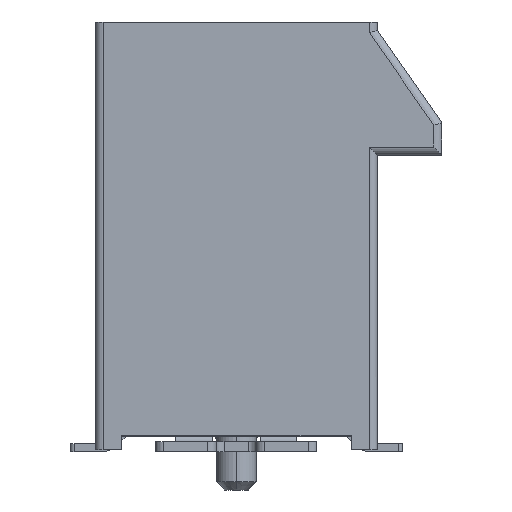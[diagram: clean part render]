
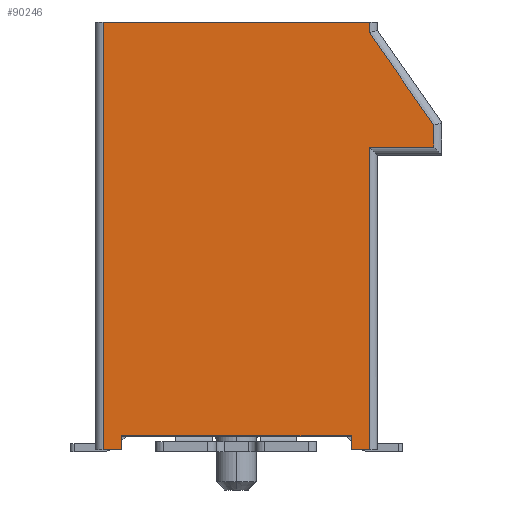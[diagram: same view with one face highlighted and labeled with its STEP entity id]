
A CAD part, left-side view. The second image highlights one B-rep face of the part: STEP entity #90246.
In plain terms, the highlighted planar face has unit normal (-1, 0, 0).
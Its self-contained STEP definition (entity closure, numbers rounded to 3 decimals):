
#6072=DIRECTION('',(0.,-1.,0.));
#6073=VECTOR('',#6072,1.6);
#6074=CARTESIAN_POINT('',(-44.5,-3.3,7.65));
#6075=LINE('',#6074,#6073);
#6076=DIRECTION('',(0.,0.,1.));
#6077=VECTOR('',#6076,7.5);
#6078=CARTESIAN_POINT('',(-44.5,-3.3,0.15));
#6079=LINE('',#6078,#6077);
#6084=DIRECTION('',(0.,-1.,0.));
#6085=VECTOR('',#6084,0.45);
#6086=CARTESIAN_POINT('',(-44.5,-2.85,0.15));
#6087=LINE('',#6086,#6085);
#6101=DIRECTION('',(0.,-1.,0.));
#6102=VECTOR('',#6101,6.6);
#6103=CARTESIAN_POINT('',(-44.5,3.3,10.75));
#6104=LINE('',#6103,#6102);
#6105=DIRECTION('',(0.,-0.571,-0.821));
#6106=VECTOR('',#6105,2.802);
#6107=CARTESIAN_POINT('',(-44.5,-3.3,10.487));
#6108=LINE('',#6107,#6106);
#6109=DIRECTION('',(0.,1.,0.));
#6110=VECTOR('',#6109,5.7);
#6111=CARTESIAN_POINT('',(-44.5,-2.85,0.5));
#6112=LINE('',#6111,#6110);
#6117=DIRECTION('',(0.,0.,-1.));
#6118=VECTOR('',#6117,10.6);
#6119=CARTESIAN_POINT('',(-44.5,3.3,10.75));
#6120=LINE('',#6119,#6118);
#6126=DIRECTION('',(0.,-1.,0.));
#6127=VECTOR('',#6126,0.45);
#6128=CARTESIAN_POINT('',(-44.5,3.3,0.15));
#6129=LINE('',#6128,#6127);
#6146=DIRECTION('',(0.,0.,1.));
#6147=VECTOR('',#6146,0.35);
#6148=CARTESIAN_POINT('',(-44.5,2.85,0.15));
#6149=LINE('',#6148,#6147);
#6414=DIRECTION('',(0.,0.,-1.));
#6415=VECTOR('',#6414,0.35);
#6416=CARTESIAN_POINT('',(-44.5,-2.85,0.5));
#6417=LINE('',#6416,#6415);
#8965=DIRECTION('',(0.,0.,1.));
#8966=VECTOR('',#8965,0.263);
#8967=CARTESIAN_POINT('',(-44.5,-3.3,10.487));
#8968=LINE('',#8967,#8966);
#28132=DIRECTION('',(0.,0.,1.));
#28133=VECTOR('',#28132,0.537);
#28134=CARTESIAN_POINT('',(-44.5,-4.9,7.65));
#28135=LINE('',#28134,#28133);
#67305=CARTESIAN_POINT('',(-44.5,3.3,10.75));
#67306=VERTEX_POINT('',#67305);
#67311=CARTESIAN_POINT('',(-44.5,-3.3,10.75));
#67312=VERTEX_POINT('',#67311);
#67329=CARTESIAN_POINT('',(-44.5,3.3,0.15));
#67330=VERTEX_POINT('',#67329);
#67331=CARTESIAN_POINT('',(-44.5,2.85,0.15));
#67332=VERTEX_POINT('',#67331);
#67333=CARTESIAN_POINT('',(-44.5,-3.3,10.487));
#67334=VERTEX_POINT('',#67333);
#67335=CARTESIAN_POINT('',(-44.5,-4.9,8.187));
#67336=VERTEX_POINT('',#67335);
#67337=CARTESIAN_POINT('',(-44.5,-4.9,7.65));
#67338=VERTEX_POINT('',#67337);
#67339=CARTESIAN_POINT('',(-44.5,-3.3,7.65));
#67340=VERTEX_POINT('',#67339);
#67341=CARTESIAN_POINT('',(-44.5,-3.3,0.15));
#67342=VERTEX_POINT('',#67341);
#67343=CARTESIAN_POINT('',(-44.5,-2.85,0.15));
#67344=VERTEX_POINT('',#67343);
#67345=CARTESIAN_POINT('',(-44.5,-2.85,0.5));
#67346=VERTEX_POINT('',#67345);
#67347=CARTESIAN_POINT('',(-44.5,2.85,0.5));
#67348=VERTEX_POINT('',#67347);
#90218=CARTESIAN_POINT('',(-44.5,3.5,0.));
#90219=DIRECTION('',(-1.,0.,0.));
#90220=DIRECTION('',(0.,-1.,0.));
#90221=AXIS2_PLACEMENT_3D('',#90218,#90219,#90220);
#90222=PLANE('',#90221);
#90224=ORIENTED_EDGE('',*,*,#90223,.F.);
#90226=ORIENTED_EDGE('',*,*,#90225,.T.);
#90228=ORIENTED_EDGE('',*,*,#90227,.F.);
#90230=ORIENTED_EDGE('',*,*,#90229,.T.);
#90232=ORIENTED_EDGE('',*,*,#90231,.F.);
#90233=ORIENTED_EDGE('',*,*,#90181,.F.);
#90234=ORIENTED_EDGE('',*,*,#90195,.F.);
#90235=ORIENTED_EDGE('',*,*,#90207,.F.);
#90237=ORIENTED_EDGE('',*,*,#90236,.F.);
#90239=ORIENTED_EDGE('',*,*,#90238,.T.);
#90241=ORIENTED_EDGE('',*,*,#90240,.F.);
#90243=ORIENTED_EDGE('',*,*,#90242,.F.);
#90244=EDGE_LOOP('',(#90224,#90226,#90228,#90230,#90232,#90233,#90234,#90235,
#90237,#90239,#90241,#90243));
#90245=FACE_OUTER_BOUND('',#90244,.F.);
#90246=ADVANCED_FACE('',(#90245),#90222,.T.);
#90181=EDGE_CURVE('',#67340,#67338,#6075,.T.);
#90195=EDGE_CURVE('',#67342,#67340,#6079,.T.);
#90207=EDGE_CURVE('',#67344,#67342,#6087,.T.);
#90223=EDGE_CURVE('',#67306,#67330,#6120,.T.);
#90225=EDGE_CURVE('',#67306,#67312,#6104,.T.);
#90227=EDGE_CURVE('',#67334,#67312,#8968,.T.);
#90229=EDGE_CURVE('',#67334,#67336,#6108,.T.);
#90231=EDGE_CURVE('',#67338,#67336,#28135,.T.);
#90236=EDGE_CURVE('',#67346,#67344,#6417,.T.);
#90238=EDGE_CURVE('',#67346,#67348,#6112,.T.);
#90240=EDGE_CURVE('',#67332,#67348,#6149,.T.);
#90242=EDGE_CURVE('',#67330,#67332,#6129,.T.);
